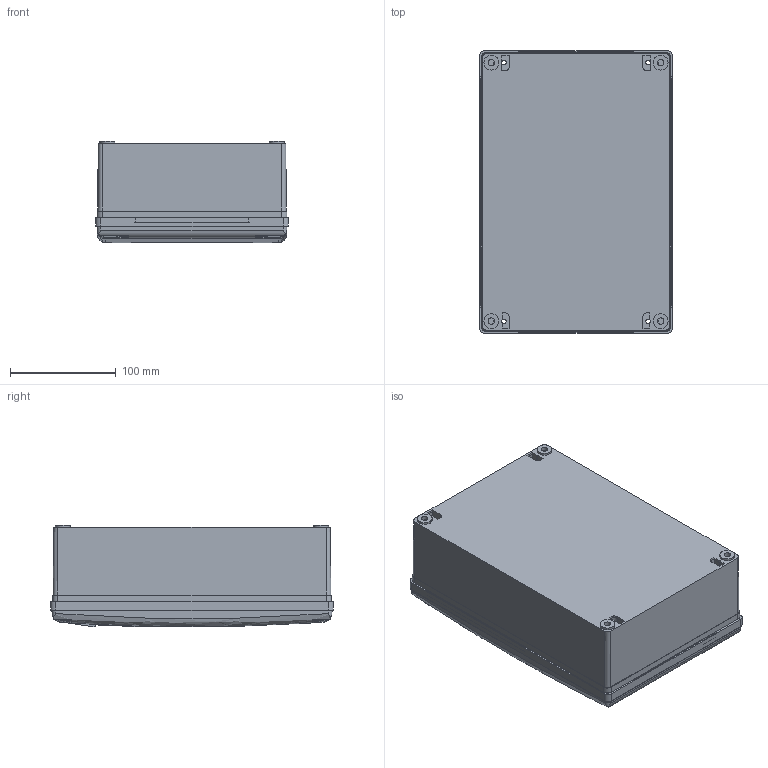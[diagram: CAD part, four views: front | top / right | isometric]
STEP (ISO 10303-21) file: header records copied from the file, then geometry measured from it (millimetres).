
FILE_DESCRIPTION(/* description */ ('Unknown'),/* implementation_level */ '2;1');
FILE_NAME(/* name */ 'NET230_C',/* time_stamp */ '2021-10-13T09:02:11+02:00',/* author */ ('Unknown'),/* organization */ ('Unknown'),/* preprocessor_version */ 'ST-DEVELOPER v16.7',/* originating_system */ 'DEX',/* authorisation */ $);
FILE_SCHEMA (('AUTOMOTIVE_DESIGN {1 0 10303 214 3 1 1}'));
Length unit declared in the file: millimetre
Products named in the file (3): 679060; 320100; 320110
Assembly tree (2 placements, depth 2):
  679060
    320100
    320110
Bounding box: 182 x 267 x 96.06 mm (x, y, z)
Volume: 517542.8 mm3; surface area: 426610.8 mm2
Topology: 2 solids, 2 shells, 1084 faces, 2842 edges, 1854 vertices
Faces by surface type: plane 794, cylinder 210, bspline 44, torus 16, cone 12, sphere 8
Full cylindrical faces by diameter (mm): 2 x14, 3 x4, 4.25 x4, 5.5 x4, 6 x4, 7 x4, 8 x10, 9 x2, 12.2 x4, 14 x4
Entity records: 33461 total; most frequent: CARTESIAN_POINT 6891, ORIENTED_EDGE 5504, DIRECTION 5355, EDGE_CURVE 2752, LINE 2009, VECTOR 2009, VERTEX_POINT 1818, AXIS2_PLACEMENT_3D 1673
